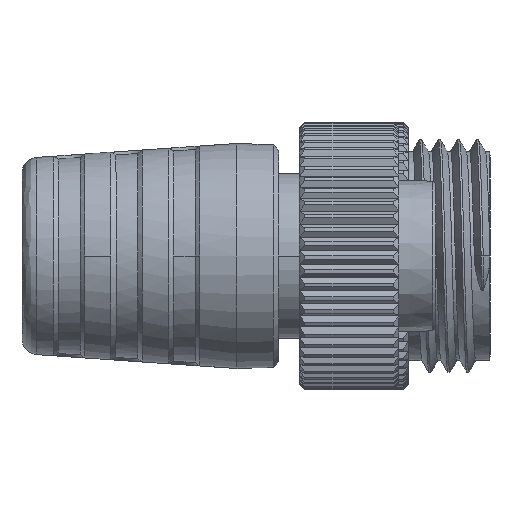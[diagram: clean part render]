
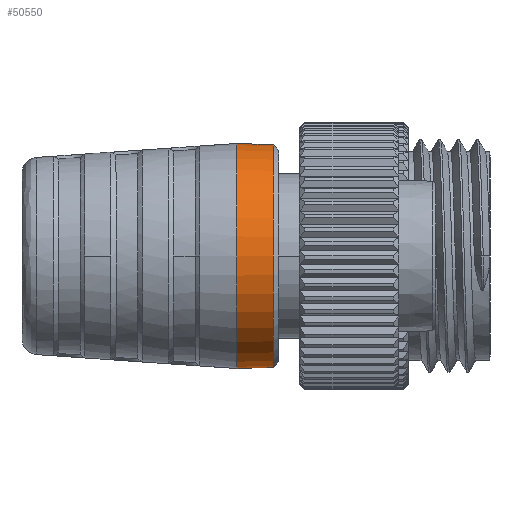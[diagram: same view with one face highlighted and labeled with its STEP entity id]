
A CAD part, left-side view. The second image highlights one B-rep face of the part: STEP entity #50550.
In plain terms, the highlighted conical face has half-angle 2 degrees and reference radius 10.75 mm.
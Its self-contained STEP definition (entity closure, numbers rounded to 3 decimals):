
#3356 = CIRCLE ( 'NONE', #26176, 10.75 ) ;
#3590 = CIRCLE ( 'NONE', #38398, 10.628 ) ;
#12279 = CARTESIAN_POINT ( 'NONE',  ( 4., -11.667, -10.709 ) ) ;
#15588 = CARTESIAN_POINT ( 'NONE',  ( 4., -14., 10.628 ) ) ;
#15664 = VERTEX_POINT ( 'NONE', #38691 ) ;
#19935 = CARTESIAN_POINT ( 'NONE',  ( 4., -14., 0. ) ) ;
#20558 = ORIENTED_EDGE ( 'NONE', *, *, #54591, .T. ) ;
#22832 = ORIENTED_EDGE ( 'NONE', *, *, #22865, .F. ) ;
#22865 = EDGE_CURVE ( 'NONE', #15664, #59104, #84347, .T. ) ;
#23605 = AXIS2_PLACEMENT_3D ( 'NONE', #85685, #79028, #51069 ) ;
#26016 = CARTESIAN_POINT ( 'NONE',  ( 4., -10.5, -10.75 ) ) ;
#26029 = CIRCLE ( 'NONE', #23605, 10.75 ) ;
#26176 = AXIS2_PLACEMENT_3D ( 'NONE', #42444, #48809, #28809 ) ;
#26505 = CARTESIAN_POINT ( 'NONE',  ( 4., -14., -10.628 ) ) ;
#28809 = DIRECTION ( 'NONE',  ( 0., 0., -1. ) ) ;
#36602 = ORIENTED_EDGE ( 'NONE', *, *, #67746, .F. ) ;
#38398 = AXIS2_PLACEMENT_3D ( 'NONE', #19935, #89632, #89336 ) ;
#38691 = CARTESIAN_POINT ( 'NONE',  ( 4., -14., -10.628 ) ) ;
#39369 = DIRECTION ( 'NONE',  ( 0., 0., 1. ) ) ;
#42444 = CARTESIAN_POINT ( 'NONE',  ( 4., -10.5, 0. ) ) ;
#43919 = VECTOR ( 'NONE', #71035, 1000. ) ;
#44644 = CARTESIAN_POINT ( 'NONE',  ( 4., -10.5, 10.75 ) ) ;
#45217 = VERTEX_POINT ( 'NONE', #44644 ) ;
#48809 = DIRECTION ( 'NONE',  ( 0., 1., 0. ) ) ;
#50550 = ADVANCED_FACE ( 'NONE', ( #86643 ), #69214, .T. ) ;
#51069 = DIRECTION ( 'NONE',  ( 0., 0., -1. ) ) ;
#52531 = CARTESIAN_POINT ( 'NONE',  ( 4., -10.5, 0. ) ) ;
#54591 = EDGE_CURVE ( 'NONE', #15664, #83859, #3590, .T. ) ;
#55336 = ORIENTED_EDGE ( 'NONE', *, *, #59750, .F. ) ;
#58368 = EDGE_LOOP ( 'NONE', ( #22832, #20558, #36602, #82195, #55336 ) ) ;
#59104 = VERTEX_POINT ( 'NONE', #26016 ) ;
#59549 = CARTESIAN_POINT ( 'NONE',  ( 4., -14., 10.628 ) ) ;
#59750 = EDGE_CURVE ( 'NONE', #59104, #62304, #26029, .T. ) ;
#60766 = CARTESIAN_POINT ( 'NONE',  ( 4., -10.5, -10.75 ) ) ;
#61661 = CARTESIAN_POINT ( 'NONE',  ( 4., -12.834, -10.669 ) ) ;
#62304 = VERTEX_POINT ( 'NONE', #69109 ) ;
#67746 = EDGE_CURVE ( 'NONE', #45217, #83859, #78711, .T. ) ;
#67955 = AXIS2_PLACEMENT_3D ( 'NONE', #52531, #89031, #39369 ) ;
#69109 = CARTESIAN_POINT ( 'NONE',  ( 4., -10.5, -10.75 ) ) ;
#69214 = CONICAL_SURFACE ( 'NONE', #67955, 10.75, 0.035 ) ;
#71035 = DIRECTION ( 'NONE',  ( 0., -0.999, -0.035 ) ) ;
#78711 = LINE ( 'NONE', #15588, #43919 ) ;
#79028 = DIRECTION ( 'NONE',  ( 0., 1., 0. ) ) ;
#82195 = ORIENTED_EDGE ( 'NONE', *, *, #85317, .F. ) ;
#83859 = VERTEX_POINT ( 'NONE', #59549 ) ;
#84347 = B_SPLINE_CURVE_WITH_KNOTS ( 'NONE', 3,
 ( #26505, #61661, #12279, #60766 ),
 .UNSPECIFIED., .F., .F.,
 ( 4, 4 ),
 ( 0., 1. ),
 .UNSPECIFIED. ) ;
#85317 = EDGE_CURVE ( 'NONE', #62304, #45217, #3356, .T. ) ;
#85685 = CARTESIAN_POINT ( 'NONE',  ( 4., -10.5, 0. ) ) ;
#86643 = FACE_OUTER_BOUND ( 'NONE', #58368, .T. ) ;
#89031 = DIRECTION ( 'NONE',  ( 0., 1., 0. ) ) ;
#89336 = DIRECTION ( 'NONE',  ( 0., 0., 1. ) ) ;
#89632 = DIRECTION ( 'NONE',  ( 0., 1., 0. ) ) ;
